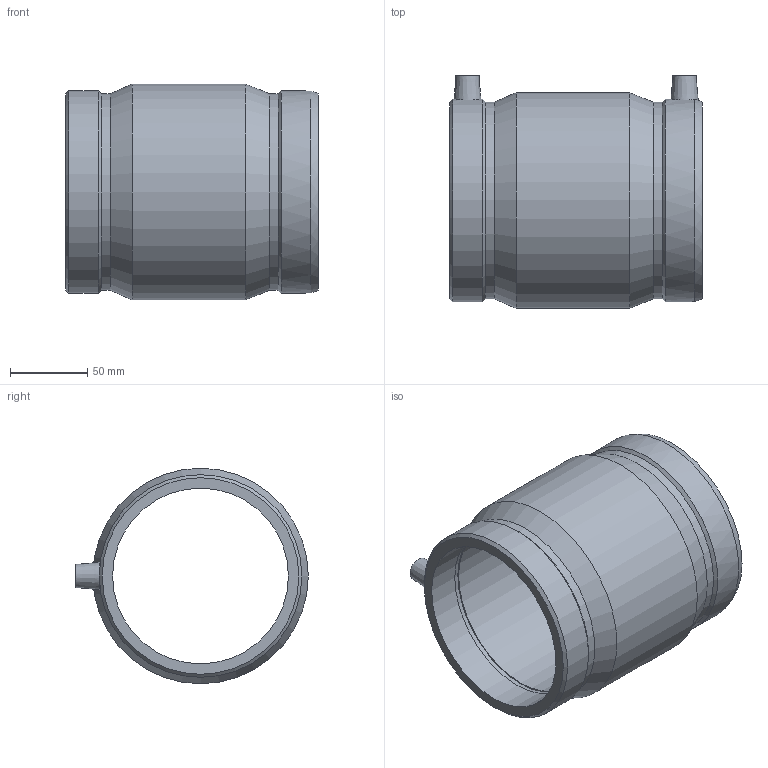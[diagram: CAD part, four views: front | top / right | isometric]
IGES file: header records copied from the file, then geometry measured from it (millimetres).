
Global section: file name: (_AS)5901B004040.ipt; native system: Autodesk Inventor 2019; preprocessor: unknown; author: KIM; date: 20210830.100840; units: inch
Bounding box: 164.08 x 151 x 139.95 mm (x, y, z)
Volume: 688698.5 mm3; surface area: 139146.5 mm2
Topology: 1 solids, 1 shells, 32 faces, 70 edges, 46 vertices
Faces by surface type: plane 10, cone 8, cylinder 7, revolution 7
Full cylindrical faces by diameter (mm): 4 x2, 127.61 x2, 131.557 x2, 139.954 x1
